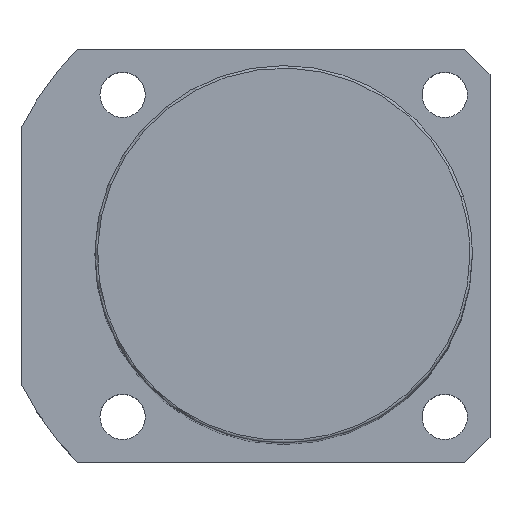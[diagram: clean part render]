
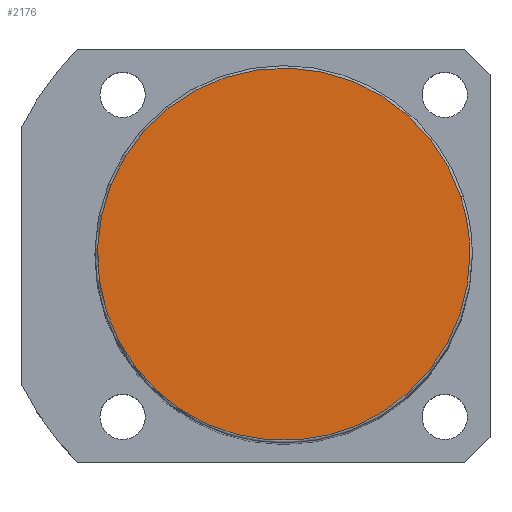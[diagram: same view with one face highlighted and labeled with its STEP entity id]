
A CAD part, top view. The second image highlights one B-rep face of the part: STEP entity #2176.
In plain terms, the highlighted planar face has unit normal (0, 0, 1).
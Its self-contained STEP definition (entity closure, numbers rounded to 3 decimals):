
#2142=CARTESIAN_POINT('',(37.0,0.0,193.0));
#2143=VERTEX_POINT('',#2142);
#2144=CARTESIAN_POINT('',(35.189,11.434,193.0));
#2145=VERTEX_POINT('',#2144);
#2146=CARTESIAN_POINT('',(0.0,0.0,193.0));
#2147=DIRECTION('',(0.0,0.0,1.0));
#2148=DIRECTION('',(1.0,0.0,0.0));
#2149=AXIS2_PLACEMENT_3D('',#2146,#2147,#2148);
#2150=CIRCLE('',#2149,37.0);
#2151=EDGE_CURVE('no 2008',#2143,#2145,#2150,.T.);
#2152=ORIENTED_EDGE('',*,*,#2151,.T.);
#2153=CARTESIAN_POINT('',(-35.189,-11.434,193.0));
#2154=VERTEX_POINT('',#2153);
#2155=CARTESIAN_POINT('',(0.0,0.0,193.0));
#2156=DIRECTION('',(0.0,0.0,1.0));
#2157=DIRECTION('',(1.0,0.0,0.0));
#2158=AXIS2_PLACEMENT_3D('',#2155,#2156,#2157);
#2159=CIRCLE('',#2158,37.0);
#2160=EDGE_CURVE('no 2014',#2145,#2154,#2159,.T.);
#2161=ORIENTED_EDGE('',*,*,#2160,.T.);
#2162=CARTESIAN_POINT('',(0.0,0.0,193.0));
#2163=DIRECTION('',(0.0,0.0,1.0));
#2164=DIRECTION('',(1.0,0.0,0.0));
#2165=AXIS2_PLACEMENT_3D('',#2162,#2163,#2164);
#2166=CIRCLE('',#2165,37.0);
#2167=EDGE_CURVE('no 2018',#2154,#2143,#2166,.T.);
#2168=ORIENTED_EDGE('',*,*,#2167,.T.);
#2169=EDGE_LOOP('',(#2152,#2161,#2168));
#2170=FACE_OUTER_BOUND('',#2169,.T.);
#2171=CARTESIAN_POINT('',(0.0,0.0,193.0));
#2172=DIRECTION('',(0.0,0.0,1.0));
#2173=DIRECTION('',(1.0,0.0,0.0));
#2174=AXIS2_PLACEMENT_3D('',#2171,#2172,#2173);
#2175=PLANE('',#2174);
#2176=ADVANCED_FACE('no 1999',(#2170),#2175,.T.);
